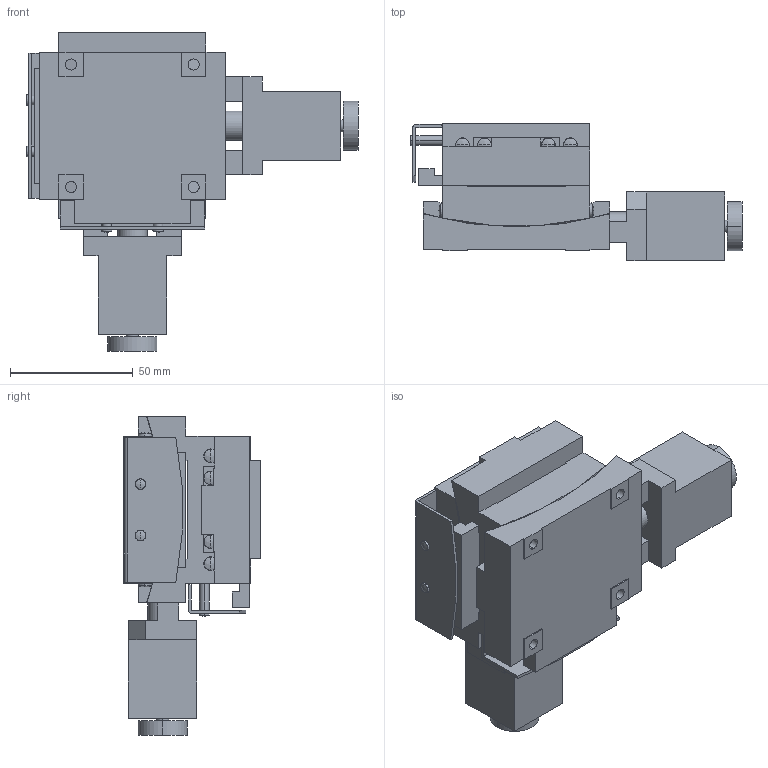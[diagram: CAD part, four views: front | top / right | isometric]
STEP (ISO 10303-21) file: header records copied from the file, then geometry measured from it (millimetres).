
FILE_DESCRIPTION (( 'STEP AP203' ), '1' );
FILE_NAME ('ATD-C610C-HM_a.STEP', '2022-01-28T07:44:01', ( '' ), ( '' ), 'SwSTEP 2.0', 'SolidWorks 2016', '' );
FILE_SCHEMA (( 'CONFIG_CONTROL_DESIGN' ));
Length unit declared in the file: millimetre
Products named in the file (4): ATD-C610C-HM-3_a; ATD-C610C-HM-2_a; ATD-C610C-HM-1_a; ATD-C610C-HM_a
Assembly tree (3 placements, depth 2):
  ATD-C610C-HM_a
    ATD-C610C-HM-1_a
    ATD-C610C-HM-2_a
    ATD-C610C-HM-3_a
Bounding box: 135.4 x 56 x 130 mm (x, y, z)
Volume: 296745.1 mm3; surface area: 80123.6 mm2
Topology: 3 solids, 11 shells, 456 faces, 1110 edges, 720 vertices
Faces by surface type: plane 200, cylinder 164, cone 52, sphere 40
Entity records: 14800 total; most frequent: CARTESIAN_POINT 3328, DIRECTION 2390, ORIENTED_EDGE 2196, EDGE_CURVE 1098, AXIS2_PLACEMENT_3D 878, VERTEX_POINT 720, VECTOR 634, LINE 634
